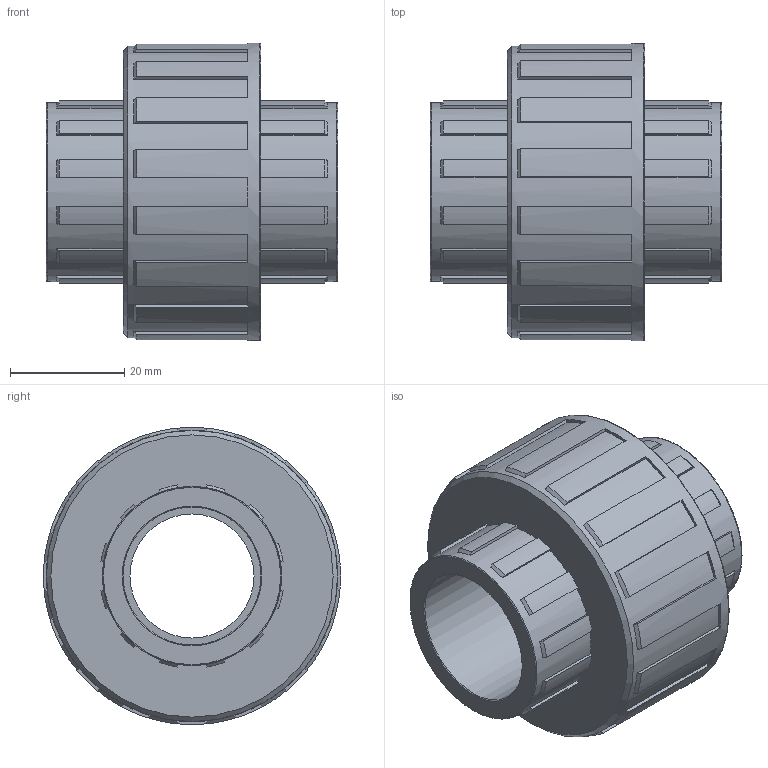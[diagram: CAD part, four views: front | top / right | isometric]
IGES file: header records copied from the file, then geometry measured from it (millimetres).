
Global section: file name: 050801007.ipt; native system: Autodesk Inventor 2015; preprocessor: unknown; author: KIM; date: 20171207.164924; units: millimetre
Bounding box: 51 x 52 x 52 mm (x, y, z)
Volume: 49166.4 mm3; surface area: 14264.4 mm2
Topology: 1 solids, 1 shells, 179 faces, 529 edges, 356 vertices
Faces by surface type: plane 102, cone 41, cylinder 28, revolution 8
Full cylindrical faces by diameter (mm): 31.347 x2, 50.96 x1, 52 x1
